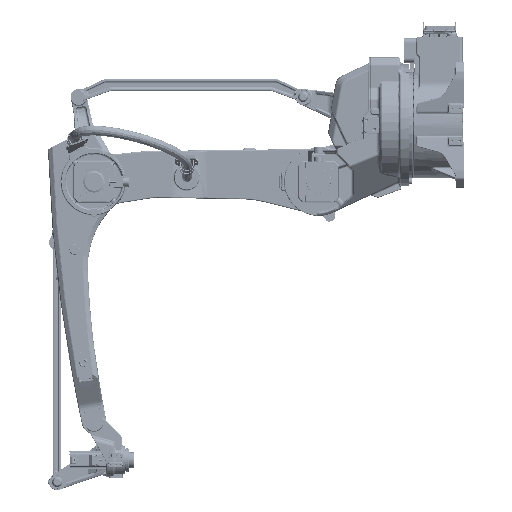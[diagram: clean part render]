
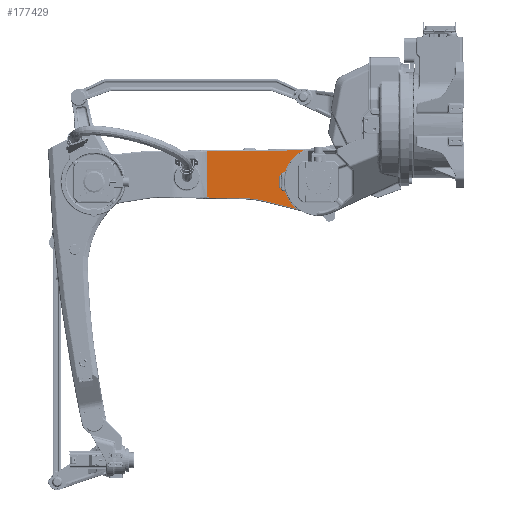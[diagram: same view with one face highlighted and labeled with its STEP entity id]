
A CAD part, left-side view. The second image highlights one B-rep face of the part: STEP entity #177429.
In plain terms, the highlighted planar face has unit normal (-1, 0, 0) as drawn and (1, 0, 0) by its records, which use the part's own axes.
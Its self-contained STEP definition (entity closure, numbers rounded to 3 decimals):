
#168640=CARTESIAN_POINT('',(-10.,123.,17.));
#168641=DIRECTION('',(1.,0.,0.));
#168642=DIRECTION('',(0.,1.,0.));
#168643=AXIS2_PLACEMENT_3D('',#168640,#168641,#168642);
#168645=CARTESIAN_POINT('',(-10.,123.079,
21.268));
#168646=CARTESIAN_POINT('',(-10.,122.824,
21.24));
#168647=CARTESIAN_POINT('',(-10.,122.314,
21.185));
#168648=CARTESIAN_POINT('',(-10.,121.55,
21.103));
#168649=CARTESIAN_POINT('',(-10.,121.04,
21.049));
#168650=CARTESIAN_POINT('',(-10.,120.785,
21.023));
#168652=DIRECTION('',(0.,-1.,0.));
#168653=VECTOR('',#168652,4.157);
#168654=CARTESIAN_POINT('',(-10.,114.995,
22.));
#168655=LINE('',#168654,#168653);
#168656=CARTESIAN_POINT('',(-10.,0.,0.));
#168657=DIRECTION('',(1.,0.,0.));
#168658=DIRECTION('',(0.,0.981,0.195));
#168659=AXIS2_PLACEMENT_3D('',#168656,#168657,#168658);
#168661=DIRECTION('',(0.,0.97,-0.243));
#168662=VECTOR('',#168661,108.814);
#168663=CARTESIAN_POINT('',(-10.,70.131,
88.604));
#168664=LINE('',#168663,#168662);
#168665=CARTESIAN_POINT('',(-10.,249.612,357.012));
#168666=DIRECTION('',(1.,0.,0.));
#168667=DIRECTION('',(0.,-0.243,-0.97));
#168668=AXIS2_PLACEMENT_3D('',#168665,#168666,#168667);
#168670=DIRECTION('',(0.,1.,-0.017));
#168671=VECTOR('',#168670,117.546);
#168672=CARTESIAN_POINT('',(-10.,244.307,53.058));
#168673=LINE('',#168672,#168671);
#168674=DIRECTION('',(0.,-1.,
-0.012));
#168675=VECTOR('',#168674,314.105);
#168676=CARTESIAN_POINT('',(-10.,361.835,
-98.504));
#168677=LINE('',#168676,#168675);
#168678=CARTESIAN_POINT('',(-10.,0.,0.));
#168679=DIRECTION('',(1.,0.,0.));
#168680=DIRECTION('',(0.,0.423,-0.906));
#168681=AXIS2_PLACEMENT_3D('',#168678,#168679,#168680);
#168683=DIRECTION('',(0.,1.,0.));
#168684=VECTOR('',#168683,12.162);
#168685=CARTESIAN_POINT('',(-10.,110.838,
-22.));
#168686=LINE('',#168685,#168684);
#168687=CARTESIAN_POINT('',(-10.,123.,-17.));
#168688=DIRECTION('',(1.,0.,0.));
#168689=DIRECTION('',(0.,0.,-1.));
#168690=AXIS2_PLACEMENT_3D('',#168687,#168688,#168689);
#168692=DIRECTION('',(0.,0.,1.));
#168693=VECTOR('',#168692,34.);
#168694=CARTESIAN_POINT('',(-10.,128.,
-17.));
#168695=LINE('',#168694,#168693);
#168696=DIRECTION('',(0.,1.,0.012));
#168697=VECTOR('',#168696,22.397);
#168698=CARTESIAN_POINT('',(-10.,89.146,-87.897));
#168699=LINE('',#168698,#168697);
#168700=CARTESIAN_POINT('',(-10.,89.072,-81.898));
#168701=DIRECTION('',(1.,0.,0.));
#168702=DIRECTION('',(0.,-0.302,-0.953));
#168703=AXIS2_PLACEMENT_3D('',#168700,#168701,#168702);
#168775=CARTESIAN_POINT('',(-10.,114.995,
22.));
#168776=CARTESIAN_POINT('',(-10.,115.649,
21.705));
#168777=CARTESIAN_POINT('',(-10.,116.951,
21.241));
#168778=CARTESIAN_POINT('',(-10.,118.917,
20.931));
#168779=CARTESIAN_POINT('',(-10.,120.168,
20.958));
#168780=CARTESIAN_POINT('',(-10.,120.785,
21.023));
#168809=CARTESIAN_POINT('',(-10.,123.079,
21.268));
#168810=CARTESIAN_POINT('',(-10.,123.363,
21.298));
#168811=CARTESIAN_POINT('',(-10.,123.92,
21.343));
#168812=CARTESIAN_POINT('',(-10.,124.727,
21.363));
#168813=CARTESIAN_POINT('',(-10.,125.244,
21.347));
#168814=CARTESIAN_POINT('',(-10.,125.498,
21.331));
#169329=DIRECTION('',(0.,0.,1.));
#169330=VECTOR('',#169329,149.511);
#169331=CARTESIAN_POINT('',(-10.,361.835,
-98.504));
#169332=LINE('',#169331,#169330);
#175159=CARTESIAN_POINT('',(-10.013,89.143,
-87.621));
#175160=CARTESIAN_POINT('',(-10.013,91.629,
-87.62));
#175161=CARTESIAN_POINT('',(-9.994,96.602,
-87.618));
#175162=CARTESIAN_POINT('',(-10.002,104.068,
-87.619));
#175163=CARTESIAN_POINT('',(-10.,109.05,-87.619));
#175164=CARTESIAN_POINT('',(-10.,111.542,-87.619));
#175166=CARTESIAN_POINT('',(-10.,87.263,-87.619));
#175167=CARTESIAN_POINT('',(-10.,87.473,-87.619));
#175168=CARTESIAN_POINT('',(-10.002,87.892,
-87.619));
#175169=CARTESIAN_POINT('',(-9.994,88.512,
-87.618));
#175170=CARTESIAN_POINT('',(-10.013,88.932,
-87.62));
#175171=CARTESIAN_POINT('',(-10.013,89.143,
-87.621));
#175603=CARTESIAN_POINT('',(-10.,110.838,
-22.));
#175604=CARTESIAN_POINT('',(-10.,123.,
-22.));
#175605=VERTEX_POINT('',#175603);
#175606=VERTEX_POINT('',#175604);
#175607=CARTESIAN_POINT('',(-10.,128.,17.));
#175608=CARTESIAN_POINT('',(-10.,125.498,21.331));
#175609=VERTEX_POINT('',#175607);
#175610=VERTEX_POINT('',#175608);
#175611=VERTEX_POINT('',#168809);
#175612=VERTEX_POINT('',#168650);
#175613=VERTEX_POINT('',#168775);
#175614=CARTESIAN_POINT('',(-10.,110.838,
22.));
#175615=VERTEX_POINT('',#175614);
#175616=CARTESIAN_POINT('',(-10.,70.131,88.604));
#175617=VERTEX_POINT('',#175616);
#175618=CARTESIAN_POINT('',(-10.,175.678,62.14));
#175619=VERTEX_POINT('',#175618);
#175620=CARTESIAN_POINT('',(-10.,244.307,53.058));
#175621=VERTEX_POINT('',#175620);
#175622=CARTESIAN_POINT('',(-10.,361.835,
51.007));
#175623=VERTEX_POINT('',#175622);
#175624=CARTESIAN_POINT('',(-10.,361.835,
-98.504));
#175625=VERTEX_POINT('',#175624);
#175626=CARTESIAN_POINT('',(-10.,47.754,
-102.414));
#175627=VERTEX_POINT('',#175626);
#175628=CARTESIAN_POINT('',(-10.,128.,
-17.001));
#175629=VERTEX_POINT('',#175628);
#175630=CARTESIAN_POINT('',(-10.,89.146,-87.897));
#175631=CARTESIAN_POINT('',(-10.,111.542,-87.619));
#175632=VERTEX_POINT('',#175630);
#175633=VERTEX_POINT('',#175631);
#175634=VERTEX_POINT('',#175159);
#175635=VERTEX_POINT('',#175166);
#177383=CARTESIAN_POINT('',(-10.,0.,0.));
#177384=DIRECTION('',(-1.,0.,0.));
#177385=DIRECTION('',(0.,0.,1.));
#177386=AXIS2_PLACEMENT_3D('',#177383,#177384,#177385);
#177387=PLANE('',#177386);
#177389=ORIENTED_EDGE('',*,*,#177388,.T.);
#177391=ORIENTED_EDGE('',*,*,#177390,.F.);
#177393=ORIENTED_EDGE('',*,*,#177392,.T.);
#177395=ORIENTED_EDGE('',*,*,#177394,.F.);
#177397=ORIENTED_EDGE('',*,*,#177396,.T.);
#177399=ORIENTED_EDGE('',*,*,#177398,.T.);
#177401=ORIENTED_EDGE('',*,*,#177400,.T.);
#177403=ORIENTED_EDGE('',*,*,#177402,.T.);
#177405=ORIENTED_EDGE('',*,*,#177404,.T.);
#177407=ORIENTED_EDGE('',*,*,#177406,.F.);
#177409=ORIENTED_EDGE('',*,*,#177408,.T.);
#177411=ORIENTED_EDGE('',*,*,#177410,.T.);
#177412=ORIENTED_EDGE('',*,*,#177373,.T.);
#177414=ORIENTED_EDGE('',*,*,#177413,.T.);
#177416=ORIENTED_EDGE('',*,*,#177415,.T.);
#177417=EDGE_LOOP('',(#177389,#177391,#177393,#177395,#177397,#177399,#177401,
#177403,#177405,#177407,#177409,#177411,#177412,#177414,#177416));
#177418=FACE_OUTER_BOUND('',#177417,.F.);
#177420=ORIENTED_EDGE('',*,*,#177419,.T.);
#177422=ORIENTED_EDGE('',*,*,#177421,.F.);
#177424=ORIENTED_EDGE('',*,*,#177423,.F.);
#177426=ORIENTED_EDGE('',*,*,#177425,.T.);
#177427=EDGE_LOOP('',(#177420,#177422,#177424,#177426));
#177428=FACE_BOUND('',#177427,.F.);
#177429=ADVANCED_FACE('',(#177418,#177428),#177387,.F.);
#168644=CIRCLE('',#168643,5.);
#168651=B_SPLINE_CURVE_WITH_KNOTS('',3,(#168645,#168646,#168647,#168648,#168649,
#168650),.UNSPECIFIED.,.F.,.F.,(4,1,1,4),(0.,0.333,
0.667,1.),.UNSPECIFIED.);
#168660=CIRCLE('',#168659,113.);
#168669=CIRCLE('',#168668,304.);
#168682=CIRCLE('',#168681,113.);
#168691=CIRCLE('',#168690,5.);
#168704=CIRCLE('',#168703,6.);
#168781=B_SPLINE_CURVE_WITH_KNOTS('',3,(#168775,#168776,#168777,#168778,#168779,
#168780),.UNSPECIFIED.,.F.,.F.,(4,1,1,4),(0.,0.333,
0.667,1.),.UNSPECIFIED.);
#168815=B_SPLINE_CURVE_WITH_KNOTS('',3,(#168809,#168810,#168811,#168812,#168813,
#168814),.UNSPECIFIED.,.F.,.F.,(4,1,1,4),(0.,0.333,
0.667,1.),.UNSPECIFIED.);
#175165=B_SPLINE_CURVE_WITH_KNOTS('',3,(#175159,#175160,#175161,#175162,#175163,
#175164),.UNSPECIFIED.,.F.,.F.,(4,1,1,4),(0.,0.333,
0.667,1.),.UNSPECIFIED.);
#175172=B_SPLINE_CURVE_WITH_KNOTS('',3,(#175166,#175167,#175168,#175169,#175170,
#175171),.UNSPECIFIED.,.F.,.F.,(4,1,1,4),(0.,0.333,
0.667,1.),.UNSPECIFIED.);
#177373=EDGE_CURVE('',#175605,#175606,#168686,.T.);
#177388=EDGE_CURVE('',#175609,#175610,#168644,.T.);
#177390=EDGE_CURVE('',#175611,#175610,#168815,.T.);
#177392=EDGE_CURVE('',#175611,#175612,#168651,.T.);
#177394=EDGE_CURVE('',#175613,#175612,#168781,.T.);
#177396=EDGE_CURVE('',#175613,#175615,#168655,.T.);
#177398=EDGE_CURVE('',#175615,#175617,#168660,.T.);
#177400=EDGE_CURVE('',#175617,#175619,#168664,.T.);
#177402=EDGE_CURVE('',#175619,#175621,#168669,.T.);
#177404=EDGE_CURVE('',#175621,#175623,#168673,.T.);
#177406=EDGE_CURVE('',#175625,#175623,#169332,.T.);
#177408=EDGE_CURVE('',#175625,#175627,#168677,.T.);
#177410=EDGE_CURVE('',#175627,#175605,#168682,.T.);
#177413=EDGE_CURVE('',#175606,#175629,#168691,.T.);
#177415=EDGE_CURVE('',#175629,#175609,#168695,.T.);
#177419=EDGE_CURVE('',#175632,#175633,#168699,.T.);
#177421=EDGE_CURVE('',#175634,#175633,#175165,.T.);
#177423=EDGE_CURVE('',#175635,#175634,#175172,.T.);
#177425=EDGE_CURVE('',#175635,#175632,#168704,.T.);
